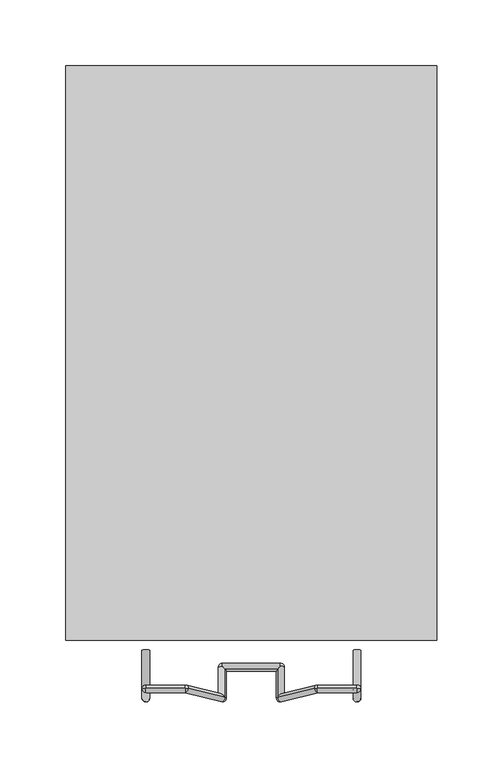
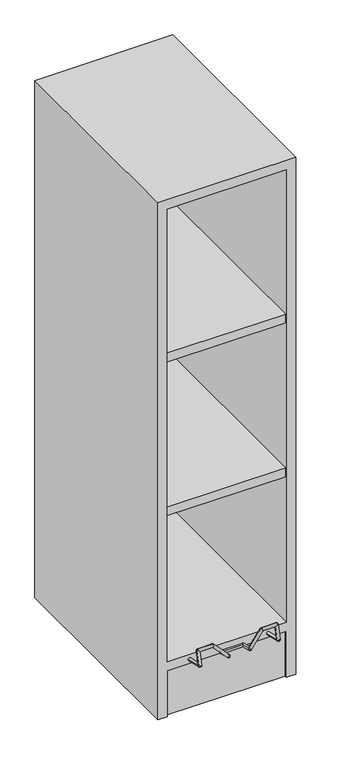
"""IFC4 building model written with IfcOpenShell, lengths in millimetres: furniture geometry, BK Library - Mag-Mag - 1110 - 1 Collum : BK Library - Mag-Mag - 1110 - 1 Collum."""

from ifc_helpers import new_model, si_unit, point, frame, origin, place, context, project, spatial, circle_curve, ellipse_curve, trimmed, faceted_brep, source, transform, mapped, element, save
from ifc_brep_helpers import plane_surface, cylinder_surface, revolved_surface, advanced_brep


def furniture_fc0f41f4(model_context):
    return source(origin(), model_context, "Body", "SolidModel", [
        faceted_brep([(-121.5, 196.5, 782.2), (121.5, 196.5, 782.2), (121.5, 196.5, 1094.8), (-121.5, 196.5, 1094.8), (-121.5, -214.5, 782.2), (121.5, -214.5, 782.2), (-121.5, -214.5, 763.2), (121.5, -214.5, 763.2), (-121.5, 196.5, 763.2), (121.5, 196.5, 763.2), (-121.5, 196.5, 450.6), (121.5, 196.5, 450.6), (-121.5, -214.5, 450.6), (121.5, -214.5, 450.6), (-121.5, -214.5, 431.6), (121.5, -214.5, 431.6), (-121.5, 196.5, 431.6), (121.5, 196.5, 431.6), (-121.5, 196.5, 119.0), (121.5, 196.5, 119.0), (-121.5, -217.5, 119.0), (121.5, -217.5, 119.0), (-121.5, -217.5, 100.0), (121.5, -217.5, 100.0), (121.5, -217.5, 0.0), (140.5, -217.5, 0.0), (140.5, -217.5, 1115.8), (-140.5, -217.5, 1115.8), (-140.5, -217.5, 0.0), (-121.5, -217.5, 0.0), (-121.5, -217.5, 1094.8), (121.5, -217.5, 1094.8), (-121.5, -212.5, 100.0), (121.5, -212.5, 100.0), (-121.5, -212.5, 0.0), (121.5, -212.5, 0.0), (-140.5, 217.5, 0.0), (140.5, 217.5, 0.0), (121.5, -193.5, 0.0), (121.5, 193.5, 0.0), (-121.5, 193.5, 0.0), (-121.5, -193.5, 0.0), (-121.5, -193.5, 100.0), (121.5, -193.5, 100.0), (-121.5, 193.5, 100.0), (121.5, 193.5, 100.0), (-140.5, 217.5, 1115.8), (140.5, 217.5, 1115.8)], [[[0, 1, 2, 3]], [[1, 0, 4, 5]], [[5, 4, 6, 7]], [[7, 6, 8, 9]], [[9, 8, 10, 11]], [[11, 10, 12, 13]], [[13, 12, 14, 15]], [[15, 14, 16, 17]], [[17, 16, 18, 19]], [[19, 18, 20, 21]], [[22, 23, 24, 25, 26, 27, 28, 29], [21, 20, 30, 31]], [[23, 22, 32, 33]], [[33, 32, 34, 35]], [[35, 34, 29, 28, 36, 37, 25, 24], [38, 39, 40, 41]], [[38, 41, 42, 43]], [[43, 42, 44, 45]], [[45, 44, 40, 39]], [[37, 36, 46, 47]], [[28, 27, 46, 36]], [[30, 20, 18, 16, 14, 12, 10, 8, 6, 4, 0, 3]], [[29, 34, 32, 22]], [[41, 40, 44, 42]], [[24, 23, 33, 35]], [[39, 38, 43, 45]], [[31, 2, 1, 5, 7, 9, 11, 13, 15, 17, 19, 21]], [[26, 25, 37, 47]], [[31, 30, 3, 2]], [[27, 26, 47, 46]]]),
        advanced_brep(
        [(-79.9995394, -261.9406341, 120.0660528), (-79.9995394, -264.144767, 123.6912146), (-82.9995394, -261.2301197, 122.9807002), (-82.9995394, -254.3618134, 151.1556247), (-79.9995394, -253.651299, 154.070272), (-79.9995394, -251.4471661, 150.4451102), (-50.0045138, -253.651299, 154.070272), (-47.8464944, -253.8682486, 153.1803088), (-50.0045138, -251.4471661, 150.4451102), (-21.9995394, -264.144767, 123.6912146), (-19.9155642, -261.741221, 120.8840783), (-19.84152, -260.7365549, 125.0053844), (-24.9995394, -237.9129408, 117.2965847), (-21.9995394, -234.9982934, 116.5860702), (-21.9995394, -236.3098837, 114.7607992), (-21.9995394, -238.6234552, 114.3819373), (-24.1575588, -238.4065056, 115.2719005), (22.0004606, -234.9982934, 116.5860702), (25.0004606, -237.9129408, 117.2965847), (24.15848, -238.4065056, 115.2719005), (22.0004606, -238.6234552, 114.3819373), (22.0004606, -236.3098837, 114.7607992), (19.9164855, -261.741221, 120.8840783), (22.0004606, -264.144767, 123.6912146), (19.8424412, -260.7365549, 125.0053844), (47.8474157, -253.8682486, 153.1803088), (50.0054351, -253.651299, 154.070272), (50.0054351, -251.4471661, 150.4451102), (80.0004606, -253.651299, 154.070272), (83.0004606, -254.3618134, 151.1556247), (80.0004606, -251.4471661, 150.4451102), (80.0004606, -264.144767, 123.6912146), (80.0004606, -261.9406341, 120.0660528), (83.0004606, -261.2301197, 122.9807002), (-82.9995394, -225.2828022, 114.2176888), (-76.9995394, -225.2828022, 114.2176888), (-76.9995394, -261.2301197, 122.9807002), (-76.9995394, -255.0723279, 148.2409773), (-79.9995394, -257.2764608, 151.8661391), (-51.2779383, -255.0723279, 148.2409773), (-50.0045138, -257.2764608, 151.8661391), (-24.1575588, -261.7236845, 120.956016), (-19.84152, -239.5159978, 119.8323702), (19.8424412, -239.5159978, 119.8323702), (24.15848, -261.7236845, 120.956016), (51.2788596, -255.0723279, 148.2409773), (50.0054351, -257.2764608, 151.8661391), (77.0004606, -255.0723279, 148.2409773), (80.0004606, -257.2764608, 151.8661391), (77.0004606, -261.2301197, 122.9807002), (83.0004606, -225.2828022, 114.2176888), (77.0004606, -225.2828022, 114.2176888), (22.0004606, -237.2024264, 120.211232), (-21.9995394, -237.2024264, 120.211232)],
        [
            (0, 1, circle_curve(frame((-79.9995394, -261.2301197, 122.9807002), z_axis=(-1.0, 0.0, 0.0), x_axis=(0.0, 0.23683814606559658, 0.9715491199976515)), 3.0)),
            (1, 2, circle_curve(frame((-79.9995394, -261.2301197, 122.9807002), z_axis=(0.0, -0.23683814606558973, -0.9715491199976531), x_axis=(0.0, -0.9715491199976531, 0.23683814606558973)), 3.0)),
            (2, 0, circle_curve(frame((-79.9995394, -261.2301197, 122.9807002), z_axis=(0.0, -0.9715491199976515, 0.2368381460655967), x_axis=(0.0, -0.2368381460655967, -0.9715491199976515)), 3.0)),
            (3, 4, circle_curve(frame((-79.9995394, -254.3618134, 151.1556247), z_axis=(0.0, 0.971549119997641, -0.23683814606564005), x_axis=(1.0, 0.0, 0.0)), 3.0)),
            (4, 5, circle_curve(frame((-79.9995394, -254.3618134, 151.1556247), z_axis=(-1.0, 0.0, 0.0), x_axis=(0.0, 0.23683814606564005, 0.971549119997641)), 3.0)),
            (5, 3, circle_curve(frame((-79.9995394, -254.3618134, 151.1556247), z_axis=(0.0, 0.23683814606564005, 0.971549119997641), x_axis=(-1.0, 0.0, 0.0)), 3.0)),
            (6, 7, circle_curve(frame((-50.0045138, -254.3618134, 151.1556247), z_axis=(0.0, 0.971549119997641, -0.23683814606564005), x_axis=(0.0, -0.23683814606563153, -0.971549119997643)), 3.0)),
            (7, 8, circle_curve(frame((-50.0045138, -254.3618134, 151.1556247), z_axis=(-0.6946583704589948, 0.17036710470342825, 0.6988739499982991), x_axis=(0.7193398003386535, 0.16452160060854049, 0.6748947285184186)), 3.0)),
            (8, 6, circle_curve(frame((-50.0045138, -254.3618134, 151.1556247), z_axis=(1.0, 0.0, 0.0), x_axis=(0.0, 0.23683814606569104, 0.9715491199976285)), 3.0)),
            (9, 10, circle_curve(frame((-21.9995394, -261.2301197, 122.9807002), z_axis=(0.7193398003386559, 0.16452160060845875, 0.6748947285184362), x_axis=(0.0, 0.971549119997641, -0.23683814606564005)), 3.0)),
            (10, 11, circle_curve(frame((-21.9995394, -261.2301197, 122.9807002), z_axis=(0.0, -0.9715491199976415, 0.2368381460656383), x_axis=(0.6946583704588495, -0.17036710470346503, -0.6988739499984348)), 3.0)),
            (11, 9, circle_curve(frame((-21.9995394, -261.2301197, 122.9807002), z_axis=(0.6946583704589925, -0.17036710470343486, -0.6988739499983), x_axis=(0.0, -0.9715491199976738, 0.2368381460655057)), 3.0)),
            (12, 13, circle_curve(frame((-21.9995394, -237.9129408, 117.2965847), z_axis=(0.0, -0.23683814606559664, -0.9715491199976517), x_axis=(-1.0, 0.0, 0.0)), 3.0)),
            (13, 14, circle_curve(frame((-21.9995394, -237.9129408, 117.2965847), z_axis=(-1.0, 0.0, 0.0), x_axis=(0.0, 0.9715491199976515, -0.23683814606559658)), 3.0)),
            (14, 15, circle_curve(frame((-21.9995394, -237.9129408, 117.2965847), z_axis=(-1.0, 0.0, 0.0), x_axis=(0.0, 0.9715491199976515, -0.23683814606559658)), 3.0)),
            (15, 16, circle_curve(frame((-21.9995394, -237.9129408, 117.2965847), z_axis=(0.0, 0.9715491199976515, -0.23683814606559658), x_axis=(-1.0, 0.0, 0.0)), 3.0)),
            (16, 12, circle_curve(frame((-21.9995394, -237.9129408, 117.2965847), z_axis=(0.0, 0.9715491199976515, -0.23683814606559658), x_axis=(-1.0, 0.0, 0.0)), 3.0)),
            (17, 18, circle_curve(frame((22.0004606, -237.9129408, 117.2965847), z_axis=(0.0, -0.23683814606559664, -0.9715491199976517), x_axis=(0.0, -0.971549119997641, 0.23683814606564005)), 3.0)),
            (18, 19, circle_curve(frame((22.0004606, -237.9129408, 117.2965847), z_axis=(0.0, 0.971549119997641, -0.23683814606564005), x_axis=(1.0, 0.0, 0.0)), 3.0)),
            (19, 20, circle_curve(frame((22.0004606, -237.9129408, 117.2965847), z_axis=(0.0, 0.971549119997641, -0.23683814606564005), x_axis=(1.0, 0.0, 0.0)), 3.0)),
            (20, 21, circle_curve(frame((22.0004606, -237.9129408, 117.2965847), z_axis=(1.0, 0.0, 0.0), x_axis=(0.0, 0.9715491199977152, -0.23683814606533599)), 3.0)),
            (21, 17, circle_curve(frame((22.0004606, -237.9129408, 117.2965847), z_axis=(1.0, 0.0, 0.0), x_axis=(0.0, 0.9715491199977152, -0.23683814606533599)), 3.0)),
            (22, 23, circle_curve(frame((22.0004606, -261.2301197, 122.9807002), z_axis=(-0.7193398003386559, 0.16452160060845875, 0.6748947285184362), x_axis=(-0.6946583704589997, -0.17036710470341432, -0.6988739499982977)), 3.0)),
            (23, 24, circle_curve(frame((22.0004606, -261.2301197, 122.9807002), z_axis=(-0.6946583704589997, -0.17036710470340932, -0.6988739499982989), x_axis=(0.0, -0.9715491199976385, 0.23683814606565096)), 3.0)),
            (24, 22, circle_curve(frame((22.0004606, -261.2301197, 122.9807002), z_axis=(-3.5409316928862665e-11, -0.9715491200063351, 0.23683814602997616), x_axis=(-0.6946583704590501, -0.1703671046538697, -0.6988739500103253)), 3.0)),
            (25, 26, circle_curve(frame((50.0054351, -254.3618134, 151.1556247), z_axis=(0.0, 0.971549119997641, -0.23683814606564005), x_axis=(-0.7193398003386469, 0.16452160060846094, 0.6748947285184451)), 3.0)),
            (26, 27, circle_curve(frame((50.0054351, -254.3618134, 151.1556247), z_axis=(-1.0, 0.0, 0.0), x_axis=(0.0, 0.2368381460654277, 0.9715491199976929)), 3.0)),
            (27, 25, circle_curve(frame((50.0054351, -254.3618134, 151.1556247), z_axis=(0.6946583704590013, 0.17036710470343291, 0.6988739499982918), x_axis=(-0.7193398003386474, 0.16452160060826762, 0.6748947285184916)), 3.0)),
            (28, 29, circle_curve(frame((80.0004606, -254.3618134, 151.1556247), z_axis=(0.0, 0.971549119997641, -0.23683814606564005), x_axis=(0.0, 0.23683814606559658, 0.9715491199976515)), 3.0)),
            (29, 30, circle_curve(frame((80.0004606, -254.3618134, 151.1556247), z_axis=(0.0, 0.23683814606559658, 0.9715491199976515), x_axis=(1.0, 0.0, 0.0)), 3.0)),
            (30, 28, circle_curve(frame((80.0004606, -254.3618134, 151.1556247), z_axis=(1.0, 0.0, -2.6767436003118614e-12), x_axis=(2.7551294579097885e-12, 0.23683814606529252, 0.9715491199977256)), 3.0)),
            (31, 32, circle_curve(frame((80.0004606, -261.2301197, 122.9807002), z_axis=(1.0, 0.0, 0.0), x_axis=(0.0, -0.971549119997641, 0.23683814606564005)), 3.0)),
            (32, 33, circle_curve(frame((80.0004606, -261.2301197, 122.9807002), z_axis=(0.0, -0.9715491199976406, 0.23683814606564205), x_axis=(0.0, -0.23683814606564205, -0.9715491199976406)), 3.0)),
            (33, 31, circle_curve(frame((80.0004606, -261.2301197, 122.9807002), z_axis=(0.0, -0.2368381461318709, -0.9715491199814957), x_axis=(0.0, -0.9715491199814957, 0.2368381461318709)), 3.0)),
            (2, 34),
            (34, 35, circle_curve(frame((-79.9995394, -225.2828022, 114.2176888), z_axis=(0.0, -0.9715491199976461, 0.23683814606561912), x_axis=(-1.0, 0.0, 0.0)), 3.0)),
            (35, 36),
            (36, 0, circle_curve(frame((-79.9995394, -261.2301197, 122.9807002), z_axis=(0.0, 0.9715491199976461, -0.23683814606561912), x_axis=(-1.0, 0.0, 0.0)), 3.0)),
            (3, 2),
            (1, 36, circle_curve(frame((-79.9995394, -261.2301197, 122.9807002), z_axis=(0.0, 0.23683814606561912, 0.9715491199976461), x_axis=(-1.0, 0.0, 0.0)), 3.0)),
            (36, 37),
            (37, 38, ellipse_curve(frame((-79.9995394, -254.3618134, 151.1556247), z_axis=(-0.7071067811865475, -0.1674698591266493, -0.6869889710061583), x_axis=(0.7071067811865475, -0.1674698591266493, -0.6869889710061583)), 4.2426407, 3.0)),
            (38, 3, circle_curve(frame((-79.9995394, -254.3618134, 151.1556247), z_axis=(0.0, -0.23683814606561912, -0.9715491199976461), x_axis=(-1.0, 0.0, 0.0)), 3.0)),
            (6, 4),
            (4, 38, circle_curve(frame((-79.9995394, -254.3618134, 151.1556247), z_axis=(1.0, 0.0, 0.0), x_axis=(0.0, 0.23683814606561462, 0.9715491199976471)), 3.0)),
            (37, 39),
            (39, 40, ellipse_curve(frame((-50.0045138, -254.3618134, 151.1556247), z_axis=(-0.9205048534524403, 0.09254003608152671, 0.37961448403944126), x_axis=(-0.3907311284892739, -0.21801066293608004, -0.8943156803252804)), 3.2590811, 3.0)),
            (40, 6, circle_curve(frame((-50.0045138, -254.3618134, 151.1556247), z_axis=(-1.0, 0.0, 0.0), x_axis=(0.0, 0.23683814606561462, 0.9715491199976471)), 3.0)),
            (11, 7),
            (7, 40, circle_curve(frame((-50.0045138, -254.3618134, 151.1556247), z_axis=(0.694658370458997, -0.17036710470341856, -0.6988739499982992), x_axis=(0.7193398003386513, 0.16452160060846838, 0.6748947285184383)), 3.0)),
            (39, 41),
            (41, 9, circle_curve(frame((-21.9995394, -261.2301197, 122.9807002), z_axis=(-0.694658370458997, 0.17036710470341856, 0.6988739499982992), x_axis=(0.7193398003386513, 0.16452160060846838, 0.6748947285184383)), 3.0)),
            (42, 11),
            (10, 41, circle_curve(frame((-21.9995394, -261.2301197, 122.9807002), z_axis=(0.0, 0.9715491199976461, -0.23683814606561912), x_axis=(0.719339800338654, 0.16452160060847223, 0.6748947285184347)), 3.0)),
            (41, 16),
            (15, 42, ellipse_curve(frame((-21.9995394, -237.9129408, 117.2965847), z_axis=(-0.7071067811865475, -0.6869889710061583, 0.1674698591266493), x_axis=(0.7071067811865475, -0.6869889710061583, 0.1674698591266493)), 4.2426407, 3.0)),
            (43, 42),
            (14, 21),
            (20, 43, ellipse_curve(frame((22.0004606, -237.9129408, 117.2965847), z_axis=(-0.7071067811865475, 0.6869889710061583, -0.16746985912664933), x_axis=(-0.7071067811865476, -0.6869889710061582, 0.1674698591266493)), 4.2426407, 3.0)),
            (24, 43),
            (19, 44),
            (44, 22, circle_curve(frame((22.0004606, -261.2301197, 122.9807002), z_axis=(0.0, 0.9715491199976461, -0.23683814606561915), x_axis=(-0.7193398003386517, 0.16452160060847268, 0.6748947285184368)), 3.0)),
            (25, 24),
            (23, 44, circle_curve(frame((22.0004606, -261.2301197, 122.9807002), z_axis=(0.6946583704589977, 0.17036710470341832, 0.6988739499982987), x_axis=(-0.7193398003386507, 0.16452160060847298, 0.674894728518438)), 3.0)),
            (44, 45),
            (45, 46, ellipse_curve(frame((50.0054351, -254.3618134, 151.1556247), z_axis=(-0.9205048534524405, -0.09254003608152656, -0.37961448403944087), x_axis=(0.3907311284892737, -0.21801066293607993, -0.8943156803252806)), 3.2590811, 3.0)),
            (46, 25, circle_curve(frame((50.0054351, -254.3618134, 151.1556247), z_axis=(-0.6946583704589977, -0.17036710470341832, -0.6988739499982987), x_axis=(-0.7193398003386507, 0.16452160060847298, 0.674894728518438)), 3.0)),
            (28, 26),
            (26, 46, circle_curve(frame((50.0054351, -254.3618134, 151.1556247), z_axis=(1.0, 0.0, 0.0), x_axis=(0.0, 0.236838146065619, 0.9715491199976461)), 3.0)),
            (45, 47),
            (47, 48, ellipse_curve(frame((80.0004606, -254.3618134, 151.1556247), z_axis=(-0.7071067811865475, 0.1674698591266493, 0.6869889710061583), x_axis=(-0.7071067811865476, -0.16746985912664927, -0.6869889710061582)), 4.2426407, 3.0)),
            (48, 28, circle_curve(frame((80.0004606, -254.3618134, 151.1556247), z_axis=(-1.0, 0.0, 0.0), x_axis=(0.0, 0.236838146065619, 0.9715491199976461)), 3.0)),
            (33, 29),
            (29, 48, circle_curve(frame((80.0004606, -254.3618134, 151.1556247), z_axis=(0.0, -0.23683814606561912, -0.9715491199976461), x_axis=(1.0, 0.0, 0.0)), 3.0)),
            (47, 49),
            (49, 31, circle_curve(frame((80.0004606, -261.2301197, 122.9807002), z_axis=(0.0, 0.23683814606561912, 0.9715491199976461), x_axis=(1.0, 0.0, 0.0)), 3.0)),
            (50, 33),
            (32, 49, circle_curve(frame((80.0004606, -261.2301197, 122.9807002), z_axis=(0.0, 0.9715491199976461, -0.23683814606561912), x_axis=(1.0, 0.0, 0.0)), 3.0)),
            (49, 51),
            (51, 50, circle_curve(frame((80.0004606, -225.2828022, 114.2176888), z_axis=(0.0, -0.9715491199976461, 0.23683814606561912), x_axis=(1.0, 0.0, 0.0)), 3.0)),
            (51, 50, circle_curve(frame((80.0004606, -225.2828022, 114.2176888), z_axis=(0.0, 0.9715491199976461, -0.23683814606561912), x_axis=(1.0, 0.0, 0.0)), 3.0)),
            (49, 33, ellipse_curve(frame((80.0004606, -261.2301197, 122.9807002), z_axis=(0.0, 0.5195191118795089, -0.8544588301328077), x_axis=(0.0, -0.8544588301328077, -0.5195191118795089)), 4.2426407, 3.0)),
            (47, 30, ellipse_curve(frame((80.0004606, -254.3618134, 151.1556247), z_axis=(0.7071067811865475, -0.1674698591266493, -0.6869889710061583), x_axis=(0.7071067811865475, 0.1674698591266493, 0.6869889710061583)), 4.2426407, 3.0)),
            (45, 27, ellipse_curve(frame((50.0054351, -254.3618134, 151.1556247), z_axis=(0.9205048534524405, 0.09254003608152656, 0.37961448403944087), x_axis=(-0.39073112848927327, 0.21801066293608, 0.894315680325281)), 3.2590811, 3.0)),
            (44, 24, ellipse_curve(frame((22.0004606, -261.2301197, 122.9807002), z_axis=(0.49119764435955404, -0.5665212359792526, 0.6616483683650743), x_axis=(-0.4911976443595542, -0.8074567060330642, -0.3267086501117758)), 4.2426407, 3.0)),
            (18, 52, circle_curve(frame((22.0004606, -237.9129408, 117.2965847), z_axis=(0.0, -0.9715491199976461, 0.23683814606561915), x_axis=(-0.7193398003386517, 0.16452160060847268, 0.6748947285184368)), 3.0)),
            (52, 43, ellipse_curve(frame((22.0004606, -237.9129408, 117.2965847), z_axis=(0.7071067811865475, -0.6869889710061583, 0.16746985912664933), x_axis=(0.7071067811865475, 0.6869889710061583, -0.16746985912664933)), 4.2426407, 3.0)),
            (17, 52, circle_curve(frame((22.0004606, -237.9129408, 117.2965847), z_axis=(1.0, 0.0, 0.0), x_axis=(0.0, 0.9715491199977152, -0.23683814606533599)), 3.0)),
            (13, 53, circle_curve(frame((-21.9995394, -237.9129408, 117.2965847), z_axis=(1.0, 0.0, 0.0), x_axis=(0.0, -0.534352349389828, 0.8452618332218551)), 3.0)),
            (53, 42, ellipse_curve(frame((-21.9995394, -237.9129408, 117.2965847), z_axis=(0.7071067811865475, 0.6869889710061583, -0.1674698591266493), x_axis=(-0.7071067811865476, 0.6869889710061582, -0.16746985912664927)), 4.2426407, 3.0)),
            (12, 53, circle_curve(frame((-21.9995394, -237.9129408, 117.2965847), z_axis=(0.0, 0.9715491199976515, -0.23683814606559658), x_axis=(-1.0, 0.0, 0.0)), 3.0)),
            (41, 11, ellipse_curve(frame((-21.9995394, -261.2301197, 122.9807002), z_axis=(0.49119764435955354, 0.5665212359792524, -0.6616483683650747), x_axis=(0.4911976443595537, -0.8074567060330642, -0.32670865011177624)), 4.2426407, 3.0)),
            (39, 8, ellipse_curve(frame((-50.0045138, -254.3618134, 151.1556247), z_axis=(0.9205048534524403, -0.09254003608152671, -0.37961448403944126), x_axis=(0.3907311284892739, 0.21801066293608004, 0.8943156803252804)), 3.2590811, 3.0)),
            (37, 5, ellipse_curve(frame((-79.9995394, -254.3618134, 151.1556247), z_axis=(0.7071067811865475, 0.1674698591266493, 0.6869889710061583), x_axis=(-0.7071067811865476, 0.16746985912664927, 0.6869889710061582)), 4.2426407, 3.0)),
            (36, 2, ellipse_curve(frame((-79.9995394, -261.2301197, 122.9807002), z_axis=(0.0, -0.5195191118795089, 0.8544588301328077), x_axis=(0.0, -0.8544588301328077, -0.5195191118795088)), 4.2426407, 3.0)),
            (35, 34, circle_curve(frame((-79.9995394, -225.2828022, 114.2176888), z_axis=(0.0, -0.9715491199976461, 0.23683814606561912), x_axis=(-1.0, 0.0, 0.0)), 3.0)),
        ],
        [
            revolved_surface(trimmed(ellipse_curve(frame((-79.9995394, -261.2301197, 122.9807002), z_axis=(0.0, -0.9715491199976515, 0.23683814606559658), x_axis=(0.0, 0.23683814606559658, 0.9715491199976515)), 3.0, 3.0), [point((-79.9995394, -260.5196052, 125.8953475))], [point((-82.9995394, -261.2301197, 122.9807002))], True, "CARTESIAN"), (-79.9995394, -261.2301197, 122.9807002), (-1.0, 0.0, 0.0)),
            revolved_surface(trimmed(ellipse_curve(frame((-79.9995394, -254.3618134, 151.1556247), z_axis=(0.0, 0.23683814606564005, 0.971549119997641), x_axis=(1.0, 0.0, 0.0)), 3.0, 3.0), [point((-76.9995394, -254.3618134, 151.1556247))], [point((-79.9995394, -251.4471661, 150.4451102))], True, "CARTESIAN"), (-79.9995394, -254.3618134, 151.1556247), (0.0, 0.971549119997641, -0.23683814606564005)),
            revolved_surface(trimmed(ellipse_curve(frame((-50.0045138, -254.3618134, 151.1556247), z_axis=(1.0, 0.0, 0.0), x_axis=(0.0, -0.23683814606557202, -0.9715491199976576)), 3.0, 3.0), [point((-50.0045138, -255.0723279, 148.2409773))], [point((-50.0045138, -251.4471661, 150.4451102))], True, "CARTESIAN"), (-50.0045138, -254.3618134, 151.1556247), (0.0, 0.971549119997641, -0.23683814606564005)),
            revolved_surface(trimmed(ellipse_curve(frame((-21.9995394, -261.2301197, 122.9807002), z_axis=(0.6946583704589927, -0.1703671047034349, -0.6988739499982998), x_axis=(0.0, 0.9715491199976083, -0.23683814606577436)), 3.0, 3.0), [point((-21.9995394, -258.3154723, 122.2701857))], [point((-19.84152, -260.7365549, 125.0053844))], True, "CARTESIAN"), (-21.9995394, -261.2301197, 122.9807002), (0.7193398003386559, 0.16452160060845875, 0.6748947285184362)),
            revolved_surface(trimmed(ellipse_curve(frame((-21.9995394, -237.9129408, 117.2965847), z_axis=(0.0, -0.9715491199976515, 0.23683814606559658), x_axis=(-1.0, 0.0, 0.0)), 3.0, 3.0), [point((-24.9995394, -237.9129408, 117.2965847))], [point((-21.9995394, -238.6234552, 114.3819373))], True, "CARTESIAN"), (-21.9995394, -237.9129408, 117.2965847), (0.0, -0.23683814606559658, -0.9715491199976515)),
            revolved_surface(trimmed(ellipse_curve(frame((22.0004606, -237.9129408, 117.2965847), z_axis=(1.0, 0.0, 0.0), x_axis=(0.0, -0.9715491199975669, 0.2368381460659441)), 3.0, 3.0), [point((22.0004606, -240.8275882, 118.0070991))], [point((22.0004606, -238.6234552, 114.3819373))], True, "CARTESIAN"), (22.0004606, -237.9129408, 117.2965847), (0.0, -0.23683814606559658, -0.9715491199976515)),
            revolved_surface(trimmed(ellipse_curve(frame((22.0004606, -261.2301197, 122.9807002), z_axis=(0.0, 0.9715491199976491, -0.23683814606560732), x_axis=(-0.6946583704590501, -0.17036710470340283, -0.6988739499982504)), 3.0, 3.0), [point((19.9164855, -261.741221, 120.8840783))], [point((19.8424412, -260.7365549, 125.0053844))], True, "CARTESIAN"), (22.0004606, -261.2301197, 122.9807002), (-0.7193398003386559, 0.16452160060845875, 0.6748947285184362)),
            revolved_surface(trimmed(ellipse_curve(frame((50.0054351, -254.3618134, 151.1556247), z_axis=(-0.6946583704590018, -0.17036710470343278, -0.6988739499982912), x_axis=(-0.7193398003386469, 0.16452160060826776, 0.6748947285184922)), 3.0, 3.0), [point((47.8474157, -253.8682486, 153.1803088))], [point((50.0054351, -251.4471661, 150.4451102))], True, "CARTESIAN"), (50.0054351, -254.3618134, 151.1556247), (0.0, 0.971549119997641, -0.23683814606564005)),
            revolved_surface(trimmed(ellipse_curve(frame((80.0004606, -254.3618134, 151.1556247), z_axis=(-1.0, 0.0, 0.0), x_axis=(0.0, 0.23683814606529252, 0.9715491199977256)), 3.0, 3.0), [point((80.0004606, -253.651299, 154.070272))], [point((80.0004606, -251.4471661, 150.4451102))], True, "CARTESIAN"), (80.0004606, -254.3618134, 151.1556247), (0.0, 0.971549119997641, -0.23683814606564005)),
            revolved_surface(trimmed(ellipse_curve(frame((80.0004606, -261.2301197, 122.9807002), z_axis=(0.0, 0.23683814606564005, 0.971549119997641), x_axis=(0.0, -0.971549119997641, 0.23683814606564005)), 3.0, 3.0), [point((80.0004606, -264.144767, 123.6912146))], [point((83.0004606, -261.2301197, 122.9807002))], True, "CARTESIAN"), (80.0004606, -261.2301197, 122.9807002), (1.0, 0.0, 0.0)),
            cylinder_surface(frame((-79.9995394, -225.2828022, 114.2176888), z_axis=(0.0, 0.9715491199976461, -0.23683814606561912), x_axis=(-1.0, 0.0, 0.0)), 3.0),
            cylinder_surface(frame((-79.9995394, -261.2301197, 122.9807002), z_axis=(0.0, -0.23683814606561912, -0.9715491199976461), x_axis=(-1.0, 0.0, 0.0)), 3.0),
            cylinder_surface(frame((-79.9995394, -254.3618134, 151.1556247), z_axis=(-1.0, 0.0, 0.0), x_axis=(0.0, 0.23683814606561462, 0.9715491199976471)), 3.0),
            cylinder_surface(frame((-50.0045138, -254.3618134, 151.1556247), z_axis=(-0.694658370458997, 0.17036710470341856, 0.6988739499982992), x_axis=(0.7193398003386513, 0.16452160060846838, 0.6748947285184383)), 3.0),
            cylinder_surface(frame((-21.9995394, -261.2301197, 122.9807002), z_axis=(0.0, -0.9715491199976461, 0.23683814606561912), x_axis=(0.719339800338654, 0.16452160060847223, 0.6748947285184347)), 3.0),
            cylinder_surface(frame((-21.9995394, -237.9129408, 117.2965847), z_axis=(-1.0, 0.0, 0.0), x_axis=(0.0, -0.534352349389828, 0.8452618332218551)), 3.0),
            cylinder_surface(frame((22.0004606, -237.9129408, 117.2965847), z_axis=(0.0, 0.9715491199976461, -0.23683814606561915), x_axis=(-0.7193398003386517, 0.16452160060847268, 0.6748947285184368)), 3.0),
            cylinder_surface(frame((22.0004606, -261.2301197, 122.9807002), z_axis=(-0.6946583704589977, -0.17036710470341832, -0.6988739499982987), x_axis=(-0.7193398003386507, 0.16452160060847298, 0.674894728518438)), 3.0),
            cylinder_surface(frame((50.0054351, -254.3618134, 151.1556247), z_axis=(-1.0, 0.0, 0.0), x_axis=(0.0, 0.236838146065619, 0.9715491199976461)), 3.0),
            cylinder_surface(frame((80.0004606, -254.3618134, 151.1556247), z_axis=(0.0, 0.23683814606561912, 0.9715491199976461), x_axis=(1.0, 0.0, 0.0)), 3.0),
            cylinder_surface(frame((80.0004606, -261.2301197, 122.9807002), z_axis=(0.0, -0.9715491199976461, 0.23683814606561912), x_axis=(1.0, 0.0, 0.0)), 3.0),
            plane_surface(frame((80.0004606, -225.2828022, 114.2176888), z_axis=(0.0, 0.9715491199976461, -0.23683814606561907), x_axis=(0.0, 0.23683814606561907, 0.9715491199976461))),
            revolved_surface(trimmed(ellipse_curve(frame((80.0004606, -261.2301197, 122.9807002), z_axis=(0.0, 0.23683814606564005, 0.971549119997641), x_axis=(0.0, -0.971549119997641, 0.23683814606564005)), 3.0, 3.0), [point((77.0004606, -261.2301197, 122.9807002))], [point((80.0004606, -264.144767, 123.6912146))], True, "CARTESIAN"), (80.0004606, -261.2301197, 122.9807002), (1.0, 0.0, 0.0)),
            revolved_surface(trimmed(ellipse_curve(frame((80.0004606, -254.3618134, 151.1556247), z_axis=(-1.0, 0.0, 0.0), x_axis=(0.0, 0.23683814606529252, 0.9715491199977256)), 3.0, 3.0), [point((80.0004606, -257.2764608, 151.8661391))], [point((80.0004606, -253.651299, 154.070272))], True, "CARTESIAN"), (80.0004606, -254.3618134, 151.1556247), (0.0, 0.971549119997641, -0.23683814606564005)),
            revolved_surface(trimmed(ellipse_curve(frame((50.0054351, -254.3618134, 151.1556247), z_axis=(-0.6946583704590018, -0.17036710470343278, -0.6988739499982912), x_axis=(-0.7193398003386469, 0.16452160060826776, 0.6748947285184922)), 3.0, 3.0), [point((50.0054351, -257.2764608, 151.8661391))], [point((47.8474157, -253.8682486, 153.1803088))], True, "CARTESIAN"), (50.0054351, -254.3618134, 151.1556247), (0.0, 0.971549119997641, -0.23683814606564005)),
            revolved_surface(trimmed(ellipse_curve(frame((22.0004606, -261.2301197, 122.9807002), z_axis=(0.0, 0.9715491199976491, -0.23683814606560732), x_axis=(-0.6946583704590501, -0.17036710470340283, -0.6988739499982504)), 3.0, 3.0), [point((24.15848, -261.7236845, 120.956016))], [point((19.9164855, -261.741221, 120.8840783))], True, "CARTESIAN"), (22.0004606, -261.2301197, 122.9807002), (-0.7193398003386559, 0.16452160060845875, 0.6748947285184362)),
            revolved_surface(trimmed(ellipse_curve(frame((22.0004606, -237.9129408, 117.2965847), z_axis=(1.0, 0.0, 0.0), x_axis=(0.0, -0.9715491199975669, 0.2368381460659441)), 3.0, 3.0), [point((22.0004606, -237.2024264, 120.211232))], [point((22.0004606, -240.8275882, 118.0070991))], True, "CARTESIAN"), (22.0004606, -237.9129408, 117.2965847), (0.0, -0.23683814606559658, -0.9715491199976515)),
            revolved_surface(trimmed(ellipse_curve(frame((-21.9995394, -237.9129408, 117.2965847), z_axis=(0.0, -0.9715491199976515, 0.23683814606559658), x_axis=(-1.0, 0.0, 0.0)), 3.0, 3.0), [point((-21.9995394, -237.2024264, 120.211232))], [point((-24.9995394, -237.9129408, 117.2965847))], True, "CARTESIAN"), (-21.9995394, -237.9129408, 117.2965847), (0.0, -0.23683814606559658, -0.9715491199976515)),
            revolved_surface(trimmed(ellipse_curve(frame((-21.9995394, -261.2301197, 122.9807002), z_axis=(0.6946583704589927, -0.1703671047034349, -0.6988739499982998), x_axis=(0.0, 0.9715491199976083, -0.23683814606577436)), 3.0, 3.0), [point((-24.1575588, -261.7236845, 120.956016))], [point((-21.9995394, -258.3154723, 122.2701857))], True, "CARTESIAN"), (-21.9995394, -261.2301197, 122.9807002), (0.7193398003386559, 0.16452160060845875, 0.6748947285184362)),
            revolved_surface(trimmed(ellipse_curve(frame((-50.0045138, -254.3618134, 151.1556247), z_axis=(1.0, 0.0, 0.0), x_axis=(0.0, -0.23683814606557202, -0.9715491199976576)), 3.0, 3.0), [point((-50.0045138, -257.2764608, 151.8661391))], [point((-50.0045138, -255.0723279, 148.2409773))], True, "CARTESIAN"), (-50.0045138, -254.3618134, 151.1556247), (0.0, 0.971549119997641, -0.23683814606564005)),
            revolved_surface(trimmed(ellipse_curve(frame((-79.9995394, -254.3618134, 151.1556247), z_axis=(0.0, 0.23683814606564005, 0.971549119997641), x_axis=(1.0, 0.0, 0.0)), 3.0, 3.0), [point((-79.9995394, -257.2764608, 151.8661391))], [point((-76.9995394, -254.3618134, 151.1556247))], True, "CARTESIAN"), (-79.9995394, -254.3618134, 151.1556247), (0.0, 0.971549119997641, -0.23683814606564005)),
            revolved_surface(trimmed(ellipse_curve(frame((-79.9995394, -261.2301197, 122.9807002), z_axis=(0.0, -0.9715491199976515, 0.23683814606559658), x_axis=(0.0, 0.23683814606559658, 0.9715491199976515)), 3.0, 3.0), [point((-76.9995394, -261.2301197, 122.9807002))], [point((-79.9995394, -260.5196052, 125.8953475))], True, "CARTESIAN"), (-79.9995394, -261.2301197, 122.9807002), (-1.0, 0.0, 0.0)),
            plane_surface(frame((-79.9995394, -225.2828022, 114.2176888), z_axis=(0.0, 0.9715491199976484, -0.23683814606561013), x_axis=(0.0, 0.23683814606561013, 0.9715491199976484))),
        ],
        [
            (0, [[1, 2, 3]]),
            (1, [[4, 5, 6]]),
            (2, [[7, 8, 9]]),
            (3, [[10, 11, 12]]),
            (4, [[13, 14, 15, 16, 17]]),
            (5, [[18, 19, 20, 21, 22]]),
            (6, [[23, 24, 25]]),
            (7, [[26, 27, 28]]),
            (8, [[29, 30, 31]]),
            (9, [[32, 33, 34]]),
            (10, [[35, 36, 37, 38, -3]]),
            (11, [[39, -2, 40, 41, 42, 43]]),
            (12, [[44, 45, -42, 46, 47, 48]]),
            (13, [[49, 50, -47, 51, 52, -12]]),
            (14, [[53, -11, 54, 55, -16, 56]]),
            (15, [[57, -56, -15, 58, -21, 59]]),
            (16, [[60, -59, -20, 61, 62, -25]]),
            (17, [[63, -24, 64, 65, 66, 67]]),
            (18, [[68, 69, -66, 70, 71, 72]]),
            (19, [[73, 74, -71, 75, 76, -34]]),
            (20, [[77, -33, 78, 79, 80]]),
            (21, [[-80, 81]]),
            (22, [[-32, -76, -78]]),
            (20, [[-77, -81, -79, 82]]),
            (19, [[-73, -82, -75, 83, -30]]),
            (23, [[-29, -72, -74]]),
            (18, [[-68, -31, -83, -70, 84, -27]]),
            (24, [[-26, -67, -69]]),
            (17, [[-63, -28, -84, -65, 85]]),
            (25, [[-23, -62, -64]]),
            (16, [[-60, -85, -61, -19, 86, 87]]),
            (26, [[-18, 88, -86]]),
            (15, [[-57, -87, -88, -22, -58, -14, 89, 90]]),
            (27, [[-13, 91, -89]]),
            (14, [[-53, -90, -91, -17, -55, 92]]),
            (28, [[-10, -52, -54]]),
            (13, [[-49, -92, -51, 93, -8]]),
            (29, [[-7, -48, -50]]),
            (12, [[-44, -9, -93, -46, 94, -5]]),
            (30, [[-4, -43, -45]]),
            (11, [[-39, -6, -94, -41, 95]]),
            (31, [[-1, -38, -40]]),
            (10, [[-35, -95, -37, 96]]),
            (32, [[-36, -96]]),
        ],
    ),
    ])


if __name__ == "__main__":
    model = new_model("IFC4")
    model_context = context("Model", 3, world=origin())
    ifc_project = project(units=[si_unit("LENGTHUNIT", "METRE", prefix="MILLI")], contexts=[model_context])
    site = spatial("IfcSite", under=ifc_project)
    building = spatial("IfcBuilding", under=site)
    placement = place(None, origin())
    furniture_shape = furniture_fc0f41f4(model_context)
    element("IfcFurniture", 1, ObjectType="BK Library - Mag-Mag - 1110 - 1 Collum : BK Library - Mag-Mag - 1110 - 1 Collum", at=placement, inside=building, context=model_context, shape_type="MappedRepresentation", body=[
        mapped(furniture_shape, transform((0.0, 0.0, 0.0), x_axis=(1.0, 0.0, 0.0), y_axis=(0.0, 1.0, 0.0), z_axis=(0.0, 0.0, 1.0))),
    ])
    save(model, "model.ifc")
